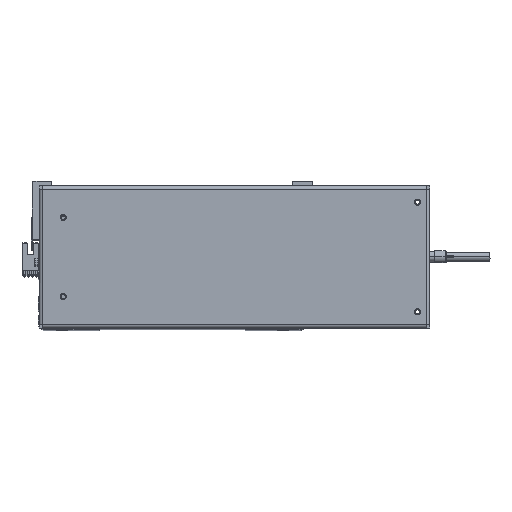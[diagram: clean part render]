
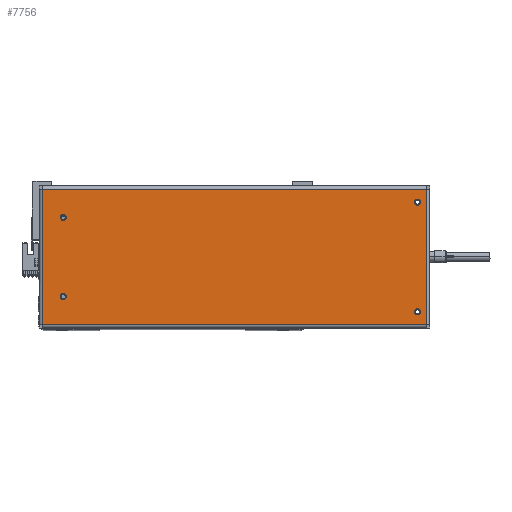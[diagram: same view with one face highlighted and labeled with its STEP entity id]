
A CAD part, top view. The second image highlights one B-rep face of the part: STEP entity #7756.
In plain terms, the highlighted planar face has unit normal (0, 0, 1).
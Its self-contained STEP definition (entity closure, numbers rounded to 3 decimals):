
#133 = AXIS2_PLACEMENT_3D ( 'NONE', #23015, #28996, #14705 ) ;
#182 = FACE_BOUND ( 'NONE', #35649, .T. ) ;
#192 = VECTOR ( 'NONE', #2061, 1000. ) ;
#246 = DIRECTION ( 'NONE',  ( -1., 0., 0. ) ) ;
#413 = AXIS2_PLACEMENT_3D ( 'NONE', #3313, #9841, #15393 ) ;
#479 = CARTESIAN_POINT ( 'NONE',  ( -140.5, 32.5, 0. ) ) ;
#564 = CIRCLE ( 'NONE', #19677, 2.5 ) ;
#611 = EDGE_CURVE ( 'NONE', #35747, #34237, #7000, .T. ) ;
#1465 = DIRECTION ( 'NONE',  ( 1., 0., 0. ) ) ;
#1640 = VERTEX_POINT ( 'NONE', #12414 ) ;
#1831 = DIRECTION ( 'NONE',  ( -1., 0., 0. ) ) ;
#2038 = LINE ( 'NONE', #18465, #192 ) ;
#2061 = DIRECTION ( 'NONE',  ( 0., 1., 0. ) ) ;
#2348 = CARTESIAN_POINT ( 'NONE',  ( -157.6, 55.6, 0. ) ) ;
#2900 = VERTEX_POINT ( 'NONE', #29986 ) ;
#3076 = DIRECTION ( 'NONE',  ( 0., 0., 1. ) ) ;
#3197 = CARTESIAN_POINT ( 'NONE',  ( -157.6, -55.6, 0. ) ) ;
#3313 = CARTESIAN_POINT ( 'NONE',  ( 150.5, -45., 0. ) ) ;
#4181 = LINE ( 'NONE', #22494, #19652 ) ;
#4193 = VERTEX_POINT ( 'NONE', #32668 ) ;
#4398 = ORIENTED_EDGE ( 'NONE', *, *, #32523, .F. ) ;
#5072 = EDGE_LOOP ( 'NONE', ( #11122, #23248 ) ) ;
#5154 = DIRECTION ( 'NONE',  ( 1., 0., 0. ) ) ;
#5889 = DIRECTION ( 'NONE',  ( 0., -1., 0. ) ) ;
#6249 = ORIENTED_EDGE ( 'NONE', *, *, #11272, .T. ) ;
#6511 = VECTOR ( 'NONE', #5889, 1000. ) ;
#7000 = LINE ( 'NONE', #2348, #6511 ) ;
#7247 = CIRCLE ( 'NONE', #19460, 2.5 ) ;
#7756 = ADVANCED_FACE ( 'NONE', ( #32394, #182, #36161, #34275, #24940 ), #27146, .F. ) ;
#8030 = ORIENTED_EDGE ( 'NONE', *, *, #35036, .T. ) ;
#8860 = EDGE_CURVE ( 'NONE', #12398, #12806, #564, .T. ) ;
#9192 = VERTEX_POINT ( 'NONE', #27262 ) ;
#9566 = CARTESIAN_POINT ( 'NONE',  ( 153., 45., 0. ) ) ;
#9690 = EDGE_LOOP ( 'NONE', ( #34794, #6249, #30223, #8030 ) ) ;
#9765 = CARTESIAN_POINT ( 'NONE',  ( -157.6, 55.6, 0. ) ) ;
#9841 = DIRECTION ( 'NONE',  ( 0., 0., 1. ) ) ;
#9930 = EDGE_LOOP ( 'NONE', ( #24734, #4398 ) ) ;
#10356 = EDGE_CURVE ( 'NONE', #2900, #30966, #23838, .T. ) ;
#10590 = AXIS2_PLACEMENT_3D ( 'NONE', #33362, #18524, #24612 ) ;
#10964 = AXIS2_PLACEMENT_3D ( 'NONE', #27871, #34382, #1465 ) ;
#11122 = ORIENTED_EDGE ( 'NONE', *, *, #10356, .F. ) ;
#11272 = EDGE_CURVE ( 'NONE', #34237, #4193, #34068, .T. ) ;
#11702 = CARTESIAN_POINT ( 'NONE',  ( 150.5, -45., 0. ) ) ;
#11835 = CARTESIAN_POINT ( 'NONE',  ( -143., -32.5, 0. ) ) ;
#12249 = VERTEX_POINT ( 'NONE', #26555 ) ;
#12398 = VERTEX_POINT ( 'NONE', #24962 ) ;
#12414 = CARTESIAN_POINT ( 'NONE',  ( 157.6, 55.6, 0. ) ) ;
#12659 = ORIENTED_EDGE ( 'NONE', *, *, #32188, .F. ) ;
#12806 = VERTEX_POINT ( 'NONE', #11835 ) ;
#13351 = EDGE_CURVE ( 'NONE', #9192, #26792, #17910, .T. ) ;
#14705 = DIRECTION ( 'NONE',  ( 1., 0., 0. ) ) ;
#14808 = VERTEX_POINT ( 'NONE', #38718 ) ;
#15260 = CARTESIAN_POINT ( 'NONE',  ( 148., -45., 0. ) ) ;
#15393 = DIRECTION ( 'NONE',  ( 1., 0., 0. ) ) ;
#16436 = DIRECTION ( 'NONE',  ( 1., 0., 0. ) ) ;
#17239 = CIRCLE ( 'NONE', #36540, 2.5 ) ;
#17311 = AXIS2_PLACEMENT_3D ( 'NONE', #479, #3076, #27399 ) ;
#17910 = CIRCLE ( 'NONE', #10964, 2.5 ) ;
#18029 = CARTESIAN_POINT ( 'NONE',  ( 157.7, 58.5, 0. ) ) ;
#18465 = CARTESIAN_POINT ( 'NONE',  ( 157.6, -55.6, 0. ) ) ;
#18524 = DIRECTION ( 'NONE',  ( 0., 0., 1. ) ) ;
#18560 = EDGE_CURVE ( 'NONE', #12249, #14808, #7247, .T. ) ;
#19460 = AXIS2_PLACEMENT_3D ( 'NONE', #28422, #30773, #20232 ) ;
#19652 = VECTOR ( 'NONE', #1831, 1000. ) ;
#19677 = AXIS2_PLACEMENT_3D ( 'NONE', #31305, #28683, #16436 ) ;
#20232 = DIRECTION ( 'NONE',  ( 1., 0., 0. ) ) ;
#20239 = CARTESIAN_POINT ( 'NONE',  ( -157.7, -55.6, 0. ) ) ;
#20667 = ORIENTED_EDGE ( 'NONE', *, *, #18560, .F. ) ;
#21152 = ORIENTED_EDGE ( 'NONE', *, *, #28899, .F. ) ;
#21309 = DIRECTION ( 'NONE',  ( 0., 0., -1. ) ) ;
#22494 = CARTESIAN_POINT ( 'NONE',  ( 157.7, 55.6, 0. ) ) ;
#23015 = CARTESIAN_POINT ( 'NONE',  ( -140.5, -32.5, 0. ) ) ;
#23122 = EDGE_CURVE ( 'NONE', #4193, #1640, #2038, .T. ) ;
#23248 = ORIENTED_EDGE ( 'NONE', *, *, #27526, .F. ) ;
#23838 = CIRCLE ( 'NONE', #413, 2.5 ) ;
#24612 = DIRECTION ( 'NONE',  ( 1., 0., 0. ) ) ;
#24734 = ORIENTED_EDGE ( 'NONE', *, *, #8860, .F. ) ;
#24940 = FACE_OUTER_BOUND ( 'NONE', #9690, .T. ) ;
#24962 = CARTESIAN_POINT ( 'NONE',  ( -138., -32.5, 0. ) ) ;
#25056 = CIRCLE ( 'NONE', #17311, 2.5 ) ;
#25921 = ORIENTED_EDGE ( 'NONE', *, *, #13351, .F. ) ;
#26555 = CARTESIAN_POINT ( 'NONE',  ( -138., 32.5, 0. ) ) ;
#26792 = VERTEX_POINT ( 'NONE', #9566 ) ;
#26997 = DIRECTION ( 'NONE',  ( 1., 0., 0. ) ) ;
#27146 = PLANE ( 'NONE',  #33128 ) ;
#27262 = CARTESIAN_POINT ( 'NONE',  ( 148., 45., 0. ) ) ;
#27399 = DIRECTION ( 'NONE',  ( 1., 0., 0. ) ) ;
#27526 = EDGE_CURVE ( 'NONE', #30966, #2900, #17239, .T. ) ;
#27871 = CARTESIAN_POINT ( 'NONE',  ( 150.5, 45., 0. ) ) ;
#28065 = CIRCLE ( 'NONE', #10590, 2.5 ) ;
#28422 = CARTESIAN_POINT ( 'NONE',  ( -140.5, 32.5, 0. ) ) ;
#28683 = DIRECTION ( 'NONE',  ( 0., 0., 1. ) ) ;
#28899 = EDGE_CURVE ( 'NONE', #14808, #12249, #25056, .T. ) ;
#28996 = DIRECTION ( 'NONE',  ( 0., 0., 1. ) ) ;
#29986 = CARTESIAN_POINT ( 'NONE',  ( 153., -45., 0. ) ) ;
#30223 = ORIENTED_EDGE ( 'NONE', *, *, #23122, .T. ) ;
#30773 = DIRECTION ( 'NONE',  ( 0., 0., 1. ) ) ;
#30966 = VERTEX_POINT ( 'NONE', #15260 ) ;
#31305 = CARTESIAN_POINT ( 'NONE',  ( -140.5, -32.5, 0. ) ) ;
#32169 = VECTOR ( 'NONE', #5154, 1000. ) ;
#32188 = EDGE_CURVE ( 'NONE', #26792, #9192, #28065, .T. ) ;
#32394 = FACE_BOUND ( 'NONE', #9930, .T. ) ;
#32523 = EDGE_CURVE ( 'NONE', #12806, #12398, #37438, .T. ) ;
#32604 = DIRECTION ( 'NONE',  ( 0., 0., 1. ) ) ;
#32668 = CARTESIAN_POINT ( 'NONE',  ( 157.6, -55.6, 0. ) ) ;
#33128 = AXIS2_PLACEMENT_3D ( 'NONE', #18029, #21309, #246 ) ;
#33362 = CARTESIAN_POINT ( 'NONE',  ( 150.5, 45., 0. ) ) ;
#34068 = LINE ( 'NONE', #20239, #32169 ) ;
#34237 = VERTEX_POINT ( 'NONE', #3197 ) ;
#34275 = FACE_BOUND ( 'NONE', #38540, .T. ) ;
#34382 = DIRECTION ( 'NONE',  ( 0., 0., 1. ) ) ;
#34794 = ORIENTED_EDGE ( 'NONE', *, *, #611, .T. ) ;
#35036 = EDGE_CURVE ( 'NONE', #1640, #35747, #4181, .T. ) ;
#35649 = EDGE_LOOP ( 'NONE', ( #20667, #21152 ) ) ;
#35747 = VERTEX_POINT ( 'NONE', #9765 ) ;
#36161 = FACE_BOUND ( 'NONE', #5072, .T. ) ;
#36540 = AXIS2_PLACEMENT_3D ( 'NONE', #11702, #32604, #26997 ) ;
#37438 = CIRCLE ( 'NONE', #133, 2.5 ) ;
#38540 = EDGE_LOOP ( 'NONE', ( #12659, #25921 ) ) ;
#38718 = CARTESIAN_POINT ( 'NONE',  ( -143., 32.5, 0. ) ) ;
